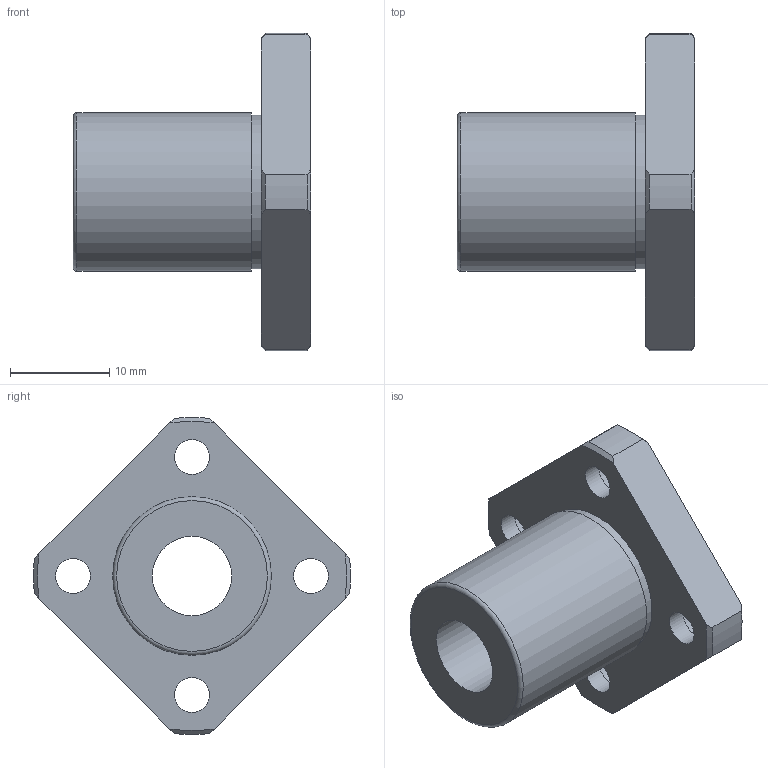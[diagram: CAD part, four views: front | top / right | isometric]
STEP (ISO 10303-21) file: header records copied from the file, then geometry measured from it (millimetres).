
FILE_DESCRIPTION(('STEP AP203'),'1');
FILE_NAME('//192.168.1.1/share/s-4 技術開発/s-4-4_CAD/s-4-4-3_見直し済み/002 修正済み/NF-V/NF-8VUU.step','2022-03-08T06:44:43',(' '),(' '),'Spatial InterOp 3D',' ',' ');
FILE_SCHEMA(('CONFIG_CONTROL_DESIGN'));
Length unit declared in the file: millimetre
Products named in the file (1): 1
Bounding box: 24 x 31.98 x 31.98 mm (x, y, z)
Volume: 5240.1 mm3; surface area: 3401.7 mm2
Topology: 1 solids, 1 shells, 36 faces, 91 edges, 63 vertices
Faces by surface type: cylinder 15, plane 12, cone 8, torus 1
Full cylindrical faces by diameter (mm): 3.5 x4, 6 x4, 8 x1, 15.5 x1, 16 x1
Entity records: 1042 total; most frequent: CARTESIAN_POINT 203, DIRECTION 168, ORIENTED_EDGE 142, AXIS2_PLACEMENT_3D 76, EDGE_CURVE 71, EDGE_LOOP 64, VERTEX_POINT 55, FACE_OUTER_BOUND 48
